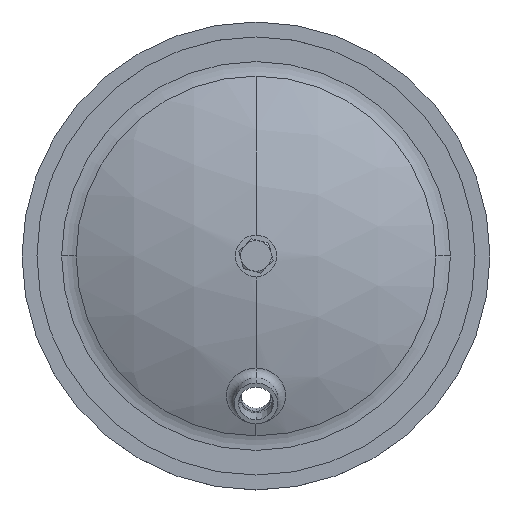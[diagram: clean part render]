
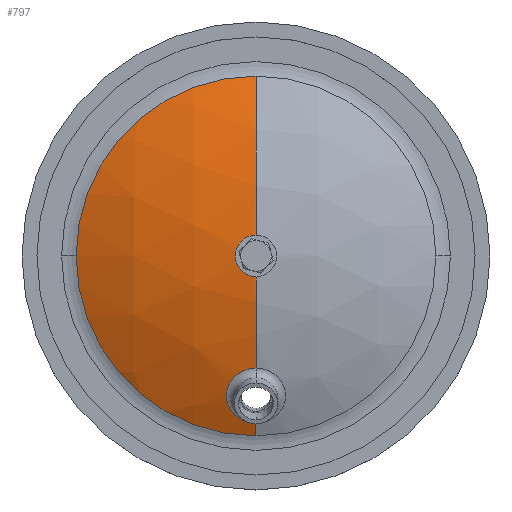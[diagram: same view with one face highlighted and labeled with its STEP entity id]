
A CAD part, top view. The second image highlights one B-rep face of the part: STEP entity #797.
In plain terms, the highlighted spherical face has radius 313.622 mm.
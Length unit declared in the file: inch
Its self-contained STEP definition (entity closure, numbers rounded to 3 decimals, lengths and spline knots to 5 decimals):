
#91 = CARTESIAN_POINT ( 'NONE',  ( -0.53813, 0.23617, 0.55576 ) ) ;
#101 = EDGE_CURVE ( 'NONE', #597, #312, #1900, .T. ) ;
#107 = EDGE_CURVE ( 'NONE', #932, #670, #1891, .T. ) ;
#170 = EDGE_CURVE ( 'NONE', #1042, #2102, #1852, .T. ) ;
#190 = DIRECTION ( 'NONE',  ( 0., 0., 1. ) ) ;
#192 = CARTESIAN_POINT ( 'NONE',  ( -0.53813, 0.6268, -0.69219 ) ) ;
#278 = DIRECTION ( 'NONE',  ( -1., 0., 0. ) ) ;
#282 = DIRECTION ( 'NONE',  ( 0., 0., 1. ) ) ;
#283 = CARTESIAN_POINT ( 'NONE',  ( -0.53813, 0.6268, 0.55576 ) ) ;
#312 = VERTEX_POINT ( 'NONE', #91 ) ;
#333 = CARTESIAN_POINT ( 'NONE',  ( -0.92875, 0.6268, 0.55576 ) ) ;
#375 = AXIS2_PLACEMENT_3D ( 'NONE', #1220, #1216, #1215 ) ;
#557 = DIRECTION ( 'NONE',  ( 0., 0.94, 0.342 ) ) ;
#559 = DIRECTION ( 'NONE',  ( 0., 0.342, -0.94 ) ) ;
#561 = CARTESIAN_POINT ( 'NONE',  ( -0.53813, -3.5853, -0.21276 ) ) ;
#597 = VERTEX_POINT ( 'NONE', #1582 ) ;
#634 = FACE_OUTER_BOUND ( 'NONE', #1885, .T. ) ;
#639 = DIRECTION ( 'NONE',  ( -1., 0., 0. ) ) ;
#640 = DIRECTION ( 'NONE',  ( 0., 0., 1. ) ) ;
#641 = CARTESIAN_POINT ( 'NONE',  ( -0.53813, 0.6268, 0.55576 ) ) ;
#670 = VERTEX_POINT ( 'NONE', #1568 ) ;
#671 = DIRECTION ( 'NONE',  ( 0., 0., -1. ) ) ;
#672 = DIRECTION ( 'NONE',  ( 1., 0., 0. ) ) ;
#675 = CARTESIAN_POINT ( 'NONE',  ( -0.53813, 0.6268, -11.78539 ) ) ;
#678 = CARTESIAN_POINT ( 'NONE',  ( -0.53813, 6.04874, -0.69219 ) ) ;
#750 = VERTEX_POINT ( 'NONE', #1397 ) ;
#775 = SPHERICAL_SURFACE ( 'NONE', #375, 12.34733 ) ;
#797 = ADVANCED_FACE ( 'NONE', ( #634 ), #775, .T. ) ;
#813 = DIRECTION ( 'NONE',  ( 0., 0., 1. ) ) ;
#814 = AXIS2_PLACEMENT_3D ( 'NONE', #944, #813, #934 ) ;
#873 = CARTESIAN_POINT ( 'NONE',  ( -0.53813, -4.79514, -0.69219 ) ) ;
#880 = AXIS2_PLACEMENT_3D ( 'NONE', #1353, #1082, #1148 ) ;
#892 = AXIS2_PLACEMENT_3D ( 'NONE', #1368, #1401, #1386 ) ;
#932 = VERTEX_POINT ( 'NONE', #873 ) ;
#934 = DIRECTION ( 'NONE',  ( -1., 0., 0. ) ) ;
#944 = CARTESIAN_POINT ( 'NONE',  ( -0.53813, 0.6268, -0.69219 ) ) ;
#1018 = EDGE_CURVE ( 'NONE', #1042, #750, #1841, .T. ) ;
#1042 = VERTEX_POINT ( 'NONE', #678 ) ;
#1059 = EDGE_CURVE ( 'NONE', #750, #1214, #1865, .T. ) ;
#1082 = DIRECTION ( 'NONE',  ( -1., 0., 0. ) ) ;
#1087 = EDGE_CURVE ( 'NONE', #670, #597, #1756, .T. ) ;
#1148 = DIRECTION ( 'NONE',  ( 0., -1., 0. ) ) ;
#1211 = CIRCLE ( 'NONE', #2033, 5.42194 ) ;
#1214 = VERTEX_POINT ( 'NONE', #333 ) ;
#1215 = DIRECTION ( 'NONE',  ( 0., 1., 0. ) ) ;
#1216 = DIRECTION ( 'NONE',  ( -1., 0., 0. ) ) ;
#1220 = CARTESIAN_POINT ( 'NONE',  ( -0.53813, 0.6268, -11.78539 ) ) ;
#1226 = EDGE_CURVE ( 'NONE', #1214, #312, #1427, .T. ) ;
#1260 = EDGE_CURVE ( 'NONE', #2102, #932, #1211, .T. ) ;
#1353 = CARTESIAN_POINT ( 'NONE',  ( -0.53813, 0.6268, -11.78539 ) ) ;
#1368 = CARTESIAN_POINT ( 'NONE',  ( -0.53813, 0.6268, -11.78539 ) ) ;
#1386 = DIRECTION ( 'NONE',  ( 0., -1., 0. ) ) ;
#1397 = CARTESIAN_POINT ( 'NONE',  ( -0.53813, 1.01742, 0.55576 ) ) ;
#1401 = DIRECTION ( 'NONE',  ( -1., 0., 0. ) ) ;
#1427 = CIRCLE ( 'NONE', #2057, 0.39062 ) ;
#1568 = CARTESIAN_POINT ( 'NONE',  ( -0.53813, -4.41999, -0.51656 ) ) ;
#1582 = CARTESIAN_POINT ( 'NONE',  ( -0.53813, -2.7506, 0.09105 ) ) ;
#1645 = ORIENTED_EDGE ( 'NONE', *, *, #1059, .F. ) ;
#1649 = ORIENTED_EDGE ( 'NONE', *, *, #1018, .F. ) ;
#1671 = ORIENTED_EDGE ( 'NONE', *, *, #101, .T. ) ;
#1673 = ORIENTED_EDGE ( 'NONE', *, *, #1226, .F. ) ;
#1694 = ORIENTED_EDGE ( 'NONE', *, *, #107, .T. ) ;
#1696 = ORIENTED_EDGE ( 'NONE', *, *, #1260, .T. ) ;
#1697 = ORIENTED_EDGE ( 'NONE', *, *, #1087, .T. ) ;
#1710 = ORIENTED_EDGE ( 'NONE', *, *, #170, .T. ) ;
#1756 = CIRCLE ( 'NONE', #2117, 0.88827 ) ;
#1825 = DIRECTION ( 'NONE',  ( -1., 0., 0. ) ) ;
#1841 = CIRCLE ( 'NONE', #1967, 12.34733 ) ;
#1852 = CIRCLE ( 'NONE', #814, 5.42194 ) ;
#1865 = CIRCLE ( 'NONE', #1894, 0.39062 ) ;
#1885 = EDGE_LOOP ( 'NONE', ( #1710, #1696, #1694, #1697, #1671, #1673, #1645, #1649 ) ) ;
#1891 = CIRCLE ( 'NONE', #880, 12.34733 ) ;
#1894 = AXIS2_PLACEMENT_3D ( 'NONE', #641, #640, #639 ) ;
#1900 = CIRCLE ( 'NONE', #892, 12.34733 ) ;
#1967 = AXIS2_PLACEMENT_3D ( 'NONE', #675, #672, #671 ) ;
#2033 = AXIS2_PLACEMENT_3D ( 'NONE', #192, #190, #1825 ) ;
#2036 = CARTESIAN_POINT ( 'NONE',  ( -5.96007, 0.6268, -0.69219 ) ) ;
#2057 = AXIS2_PLACEMENT_3D ( 'NONE', #283, #282, #278 ) ;
#2102 = VERTEX_POINT ( 'NONE', #2036 ) ;
#2117 = AXIS2_PLACEMENT_3D ( 'NONE', #561, #559, #557 ) ;
